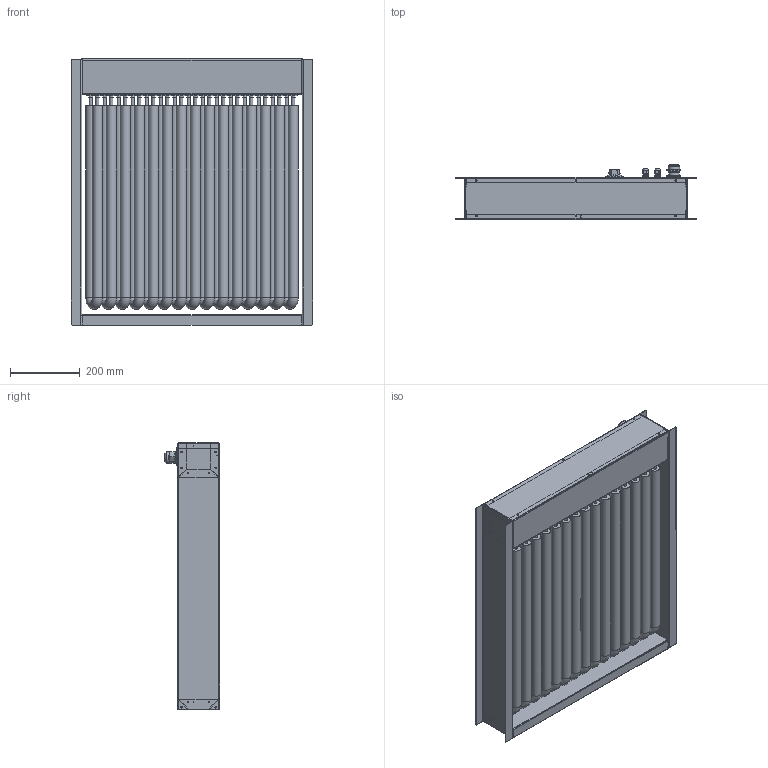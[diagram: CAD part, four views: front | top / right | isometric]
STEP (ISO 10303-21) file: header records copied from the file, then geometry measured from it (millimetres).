
FILE_DESCRIPTION(/* description */ (''),/* implementation_level */ '2;1');
FILE_NAME(/* name */ 'L:\142xxx_HRR_Elektro-Lufterhitzer\142593\stp\142593_20190620.stp',/* time_stamp */ '2019-06-20T13:17:48+02:00',/* author */ ('CAD'),/* organization */ (''),/* preprocessor_version */ 'ST-DEVELOPER v16.1',/* originating_system */ 'Autodesk Inventor 2016',/* authorisation */ '');
FILE_SCHEMA (('CONFIG_CONTROL_DESIGN'));
Products named in the file (1): 142593
Bounding box: 690 x 157.42 x 761.25 mm (x, y, z)
Volume: 12296264.4 mm3; surface area: 3056235.1 mm2
Topology: 19 solids, 54 shells, 2259 faces, 5001 edges, 3159 vertices
Faces by surface type: plane 1323, cylinder 521, cone 256, torus 114, bspline 45
Full cylindrical faces by diameter (mm): 3.242 x4, 4 x60, 4.2 x62, 6 x1, 6.5 x2, 7.3 x4, 7.5 x2, 7.7 x2, 8.2 x30, 8.5 x30, 8.7 x30, 10.128 x2, 11.5 x32, 12 x2, 12.2 x4, 14 x64, 15 x2, 18 x2, 19 x1, 19.5 x1, 21 x2, 21.2 x1, 28.5 x30, 30 x1, 31 x1, 32 x1, 32.2 x1, 33 x2, 50 x1
Entity records: 58169 total; most frequent: CARTESIAN_POINT 11524, DIRECTION 9403, ORIENTED_EDGE 8190, EDGE_CURVE 4095, AXIS2_PLACEMENT_3D 3593, EDGE_LOOP 3477, VERTEX_POINT 3000, FACE_OUTER_BOUND 2259
